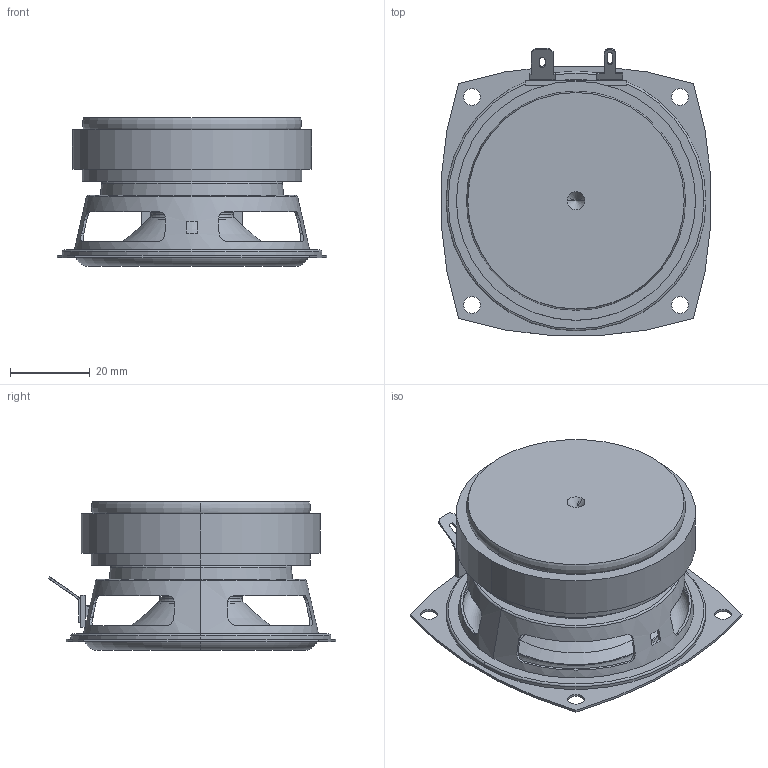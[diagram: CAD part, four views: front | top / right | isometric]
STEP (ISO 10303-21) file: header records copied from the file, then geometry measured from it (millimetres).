
FILE_DESCRIPTION((''),'2;1');
FILE_NAME('PC68-8','2018-03-15T',('Administrator'),(''),'PRO/ENGINEER BY PARAMETRIC TECHNOLOGY CORPORATION, 2013240','PRO/ENGINEER BY PARAMETRIC TECHNOLOGY CORPORATION, 2013240','');
FILE_SCHEMA(('CONFIG_CONTROL_DESIGN'));
Length unit declared in the file: millimetre
Products named in the file (1): PC68-8
Bounding box: 67.63 x 72.1 x 37.3 mm (x, y, z)
Volume: 47798.1 mm3; surface area: 31214.1 mm2
Topology: 3 solids, 3 shells, 230 faces, 563 edges, 357 vertices
Faces by surface type: plane 105, cylinder 63, torus 28, cone 22, bspline 8, revolution 4
Entity records: 7327 total; most frequent: CARTESIAN_POINT 1759, DIRECTION 1179, ORIENTED_EDGE 1114, EDGE_CURVE 557, AXIS2_PLACEMENT_3D 445, VERTEX_POINT 357, VECTOR 285, LINE 285
